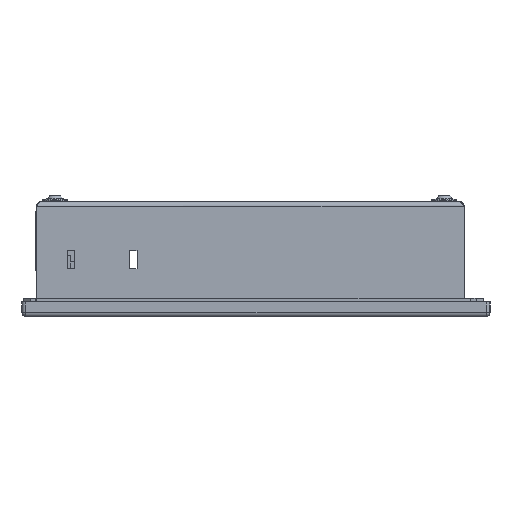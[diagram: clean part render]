
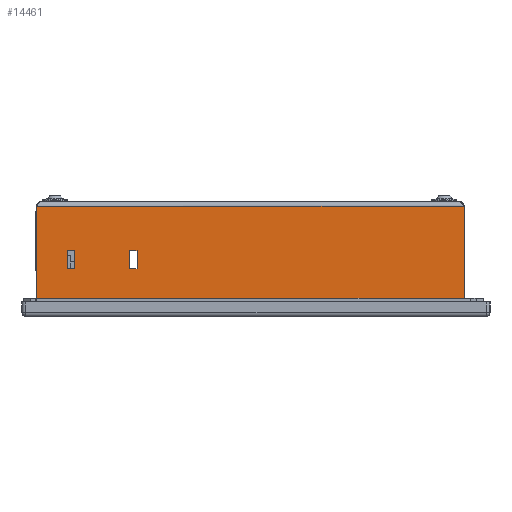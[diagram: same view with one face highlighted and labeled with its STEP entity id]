
A CAD part, left-side view. The second image highlights one B-rep face of the part: STEP entity #14461.
In plain terms, the highlighted planar face has unit normal (-1, 0, 0).
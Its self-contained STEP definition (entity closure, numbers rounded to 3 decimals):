
#217 = LINE ( 'NONE', #10247, #8421 ) ;
#283 = CARTESIAN_POINT ( 'NONE',  ( -82.4, 32.54, 18. ) ) ;
#352 = ORIENTED_EDGE ( 'NONE', *, *, #14253, .T. ) ;
#402 = VECTOR ( 'NONE', #9702, 1000. ) ;
#435 = VERTEX_POINT ( 'NONE', #4883 ) ;
#464 = CARTESIAN_POINT ( 'NONE',  ( -82.4, 60.04, 4. ) ) ;
#503 = DIRECTION ( 'NONE',  ( 0., 0., -1. ) ) ;
#547 = CARTESIAN_POINT ( 'NONE',  ( -82.4, 34.54, 18. ) ) ;
#595 = ORIENTED_EDGE ( 'NONE', *, *, #12086, .T. ) ;
#658 = CARTESIAN_POINT ( 'NONE',  ( -82.4, -56.16, 4. ) ) ;
#826 = CARTESIAN_POINT ( 'NONE',  ( -82.4, 34.54, 13. ) ) ;
#896 = DIRECTION ( 'NONE',  ( 0., -1., 0. ) ) ;
#946 = DIRECTION ( 'NONE',  ( 1., 0., 0. ) ) ;
#974 = ORIENTED_EDGE ( 'NONE', *, *, #2917, .F. ) ;
#1022 = DIRECTION ( 'NONE',  ( 0., 0., 1. ) ) ;
#1101 = VECTOR ( 'NONE', #5385, 1000. ) ;
#1333 = VERTEX_POINT ( 'NONE', #6352 ) ;
#1547 = VERTEX_POINT ( 'NONE', #3572 ) ;
#1713 = VECTOR ( 'NONE', #896, 1000. ) ;
#1977 = EDGE_CURVE ( 'NONE', #11148, #6011, #217, .T. ) ;
#2122 = EDGE_CURVE ( 'NONE', #14298, #435, #10699, .T. ) ;
#2181 = ORIENTED_EDGE ( 'NONE', *, *, #5593, .F. ) ;
#2263 = VECTOR ( 'NONE', #11773, 1000. ) ;
#2434 = DIRECTION ( 'NONE',  ( 0., 0., -1. ) ) ;
#2451 = LINE ( 'NONE', #11966, #14423 ) ;
#2650 = VERTEX_POINT ( 'NONE', #12661 ) ;
#2917 = EDGE_CURVE ( 'NONE', #8971, #5510, #5206, .T. ) ;
#2919 = EDGE_LOOP ( 'NONE', ( #352, #6654, #6659, #595 ) ) ;
#3083 = CARTESIAN_POINT ( 'NONE',  ( -82.4, 49.54, 18. ) ) ;
#3200 = CARTESIAN_POINT ( 'NONE',  ( -82.4, -56.96, 30.1 ) ) ;
#3563 = CARTESIAN_POINT ( 'NONE',  ( -82.4, 60.04, 30.1 ) ) ;
#3572 = CARTESIAN_POINT ( 'NONE',  ( -82.4, 34.54, 13. ) ) ;
#4380 = CARTESIAN_POINT ( 'NONE',  ( -82.4, 59.24, 30.6 ) ) ;
#4447 = LINE ( 'NONE', #13455, #5995 ) ;
#4508 = ORIENTED_EDGE ( 'NONE', *, *, #10033, .F. ) ;
#4741 = DIRECTION ( 'NONE',  ( 0., -1., 0. ) ) ;
#4883 = CARTESIAN_POINT ( 'NONE',  ( -82.4, 51.54, 13. ) ) ;
#5058 = EDGE_CURVE ( 'NONE', #435, #11116, #2451, .T. ) ;
#5206 = LINE ( 'NONE', #12810, #2263 ) ;
#5243 = EDGE_CURVE ( 'NONE', #8245, #8971, #6376, .T. ) ;
#5274 = ORIENTED_EDGE ( 'NONE', *, *, #5243, .F. ) ;
#5385 = DIRECTION ( 'NONE',  ( 0., 0., 1. ) ) ;
#5510 = VERTEX_POINT ( 'NONE', #547 ) ;
#5593 = EDGE_CURVE ( 'NONE', #11116, #2650, #13279, .T. ) ;
#5995 = VECTOR ( 'NONE', #2434, 1000. ) ;
#6011 = VERTEX_POINT ( 'NONE', #3200 ) ;
#6187 = LINE ( 'NONE', #11854, #8984 ) ;
#6329 = EDGE_LOOP ( 'NONE', ( #9943, #10154, #974, #5274 ) ) ;
#6352 = CARTESIAN_POINT ( 'NONE',  ( -82.4, -56.96, 4. ) ) ;
#6376 = LINE ( 'NONE', #10070, #1101 ) ;
#6654 = ORIENTED_EDGE ( 'NONE', *, *, #6779, .F. ) ;
#6659 = ORIENTED_EDGE ( 'NONE', *, *, #1977, .F. ) ;
#6779 = EDGE_CURVE ( 'NONE', #6011, #1333, #4447, .T. ) ;
#7225 = VECTOR ( 'NONE', #503, 1000. ) ;
#7636 = FACE_BOUND ( 'NONE', #11296, .T. ) ;
#8022 = CARTESIAN_POINT ( 'NONE',  ( -82.4, 49.54, 13. ) ) ;
#8245 = VERTEX_POINT ( 'NONE', #8588 ) ;
#8307 = DIRECTION ( 'NONE',  ( 0., -1., 0. ) ) ;
#8421 = VECTOR ( 'NONE', #4741, 1000. ) ;
#8588 = CARTESIAN_POINT ( 'NONE',  ( -82.4, 32.54, 13. ) ) ;
#8971 = VERTEX_POINT ( 'NONE', #283 ) ;
#8984 = VECTOR ( 'NONE', #9380, 1000. ) ;
#9380 = DIRECTION ( 'NONE',  ( 0., 0., -1. ) ) ;
#9429 = CARTESIAN_POINT ( 'NONE',  ( -82.4, 51.54, 18. ) ) ;
#9589 = CARTESIAN_POINT ( 'NONE',  ( -82.4, 51.54, 18. ) ) ;
#9702 = DIRECTION ( 'NONE',  ( 0., 0., 1. ) ) ;
#9879 = VECTOR ( 'NONE', #11118, 1000. ) ;
#9901 = LINE ( 'NONE', #826, #1713 ) ;
#9943 = ORIENTED_EDGE ( 'NONE', *, *, #10981, .F. ) ;
#10033 = EDGE_CURVE ( 'NONE', #2650, #14298, #13052, .T. ) ;
#10070 = CARTESIAN_POINT ( 'NONE',  ( -82.4, 32.54, 18. ) ) ;
#10149 = CARTESIAN_POINT ( 'NONE',  ( -82.4, 34.54, 18. ) ) ;
#10154 = ORIENTED_EDGE ( 'NONE', *, *, #13202, .F. ) ;
#10247 = CARTESIAN_POINT ( 'NONE',  ( -82.4, 59.24, 30.1 ) ) ;
#10699 = LINE ( 'NONE', #9429, #7225 ) ;
#10981 = EDGE_CURVE ( 'NONE', #1547, #8245, #9901, .T. ) ;
#11116 = VERTEX_POINT ( 'NONE', #8022 ) ;
#11118 = DIRECTION ( 'NONE',  ( 0., 0., -1. ) ) ;
#11129 = PLANE ( 'NONE',  #11956 ) ;
#11148 = VERTEX_POINT ( 'NONE', #3563 ) ;
#11264 = LINE ( 'NONE', #10149, #9879 ) ;
#11296 = EDGE_LOOP ( 'NONE', ( #11380, #14289, #4508, #2181 ) ) ;
#11332 = VECTOR ( 'NONE', #14395, 1000. ) ;
#11380 = ORIENTED_EDGE ( 'NONE', *, *, #5058, .F. ) ;
#11756 = LINE ( 'NONE', #658, #12645 ) ;
#11773 = DIRECTION ( 'NONE',  ( 0., 1., 0. ) ) ;
#11854 = CARTESIAN_POINT ( 'NONE',  ( -82.4, 60.04, 30.1 ) ) ;
#11956 = AXIS2_PLACEMENT_3D ( 'NONE', #4380, #946, #1022 ) ;
#11962 = VERTEX_POINT ( 'NONE', #464 ) ;
#11966 = CARTESIAN_POINT ( 'NONE',  ( -82.4, 51.54, 13. ) ) ;
#12064 = FACE_OUTER_BOUND ( 'NONE', #2919, .T. ) ;
#12086 = EDGE_CURVE ( 'NONE', #11148, #11962, #6187, .T. ) ;
#12203 = FACE_BOUND ( 'NONE', #6329, .T. ) ;
#12645 = VECTOR ( 'NONE', #8307, 1000. ) ;
#12661 = CARTESIAN_POINT ( 'NONE',  ( -82.4, 49.54, 18. ) ) ;
#12810 = CARTESIAN_POINT ( 'NONE',  ( -82.4, 34.54, 18. ) ) ;
#13052 = LINE ( 'NONE', #13265, #11332 ) ;
#13202 = EDGE_CURVE ( 'NONE', #5510, #1547, #11264, .T. ) ;
#13265 = CARTESIAN_POINT ( 'NONE',  ( -82.4, 51.54, 18. ) ) ;
#13279 = LINE ( 'NONE', #3083, #402 ) ;
#13455 = CARTESIAN_POINT ( 'NONE',  ( -82.4, -56.96, 30.1 ) ) ;
#13920 = DIRECTION ( 'NONE',  ( 0., -1., 0. ) ) ;
#14253 = EDGE_CURVE ( 'NONE', #11962, #1333, #11756, .T. ) ;
#14289 = ORIENTED_EDGE ( 'NONE', *, *, #2122, .F. ) ;
#14298 = VERTEX_POINT ( 'NONE', #9589 ) ;
#14395 = DIRECTION ( 'NONE',  ( 0., 1., 0. ) ) ;
#14423 = VECTOR ( 'NONE', #13920, 1000. ) ;
#14461 = ADVANCED_FACE ( 'NONE', ( #7636, #12203, #12064 ), #11129, .F. ) ;
